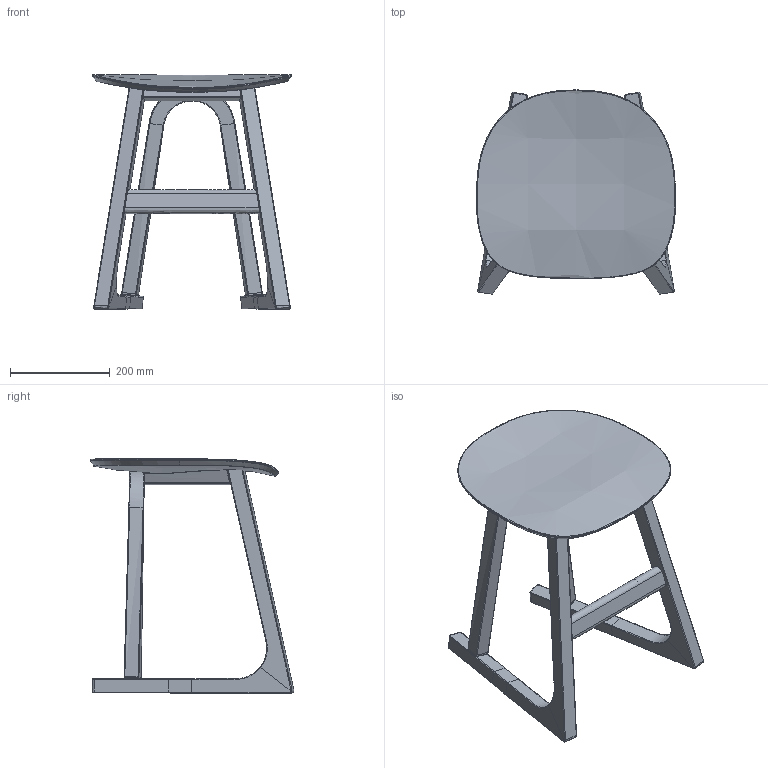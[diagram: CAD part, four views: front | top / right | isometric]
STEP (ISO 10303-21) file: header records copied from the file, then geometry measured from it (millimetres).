
FILE_DESCRIPTION(/* description */ (''),/* implementation_level */ '2;1');
FILE_NAME(/* name */ 'Sprint2020_Basso_3D',/* time_stamp */ '2020-04-17T11:35:29+02:00',/* author */ (''),/* organization */ (''),/* preprocessor_version */ 'ST-DEVELOPER v15',/* originating_system */ '',/* authorisation */ '');
FILE_SCHEMA (('AUTOMOTIVE_DESIGN'));
Length unit declared in the file: millimetre
Products named in the file (1): Document
Bounding box: 400.26 x 409.25 x 470.4 mm (x, y, z)
Volume: 1922537 mm3; surface area: 676296.4 mm2
Topology: 4 solids, 8 shells, 261 faces, 552 edges, 287 vertices
Faces by surface type: bspline 227, plane 34
Entity records: 15417 total; most frequent: CARTESIAN_POINT 12302, ORIENTED_EDGE 1042, EDGE_CURVE 551, VERTEX_POINT 283, ADVANCED_FACE 261, FACE_OUTER_BOUND 261, EDGE_LOOP 261, B_SPLINE_CURVE_WITH_KNOTS 239
